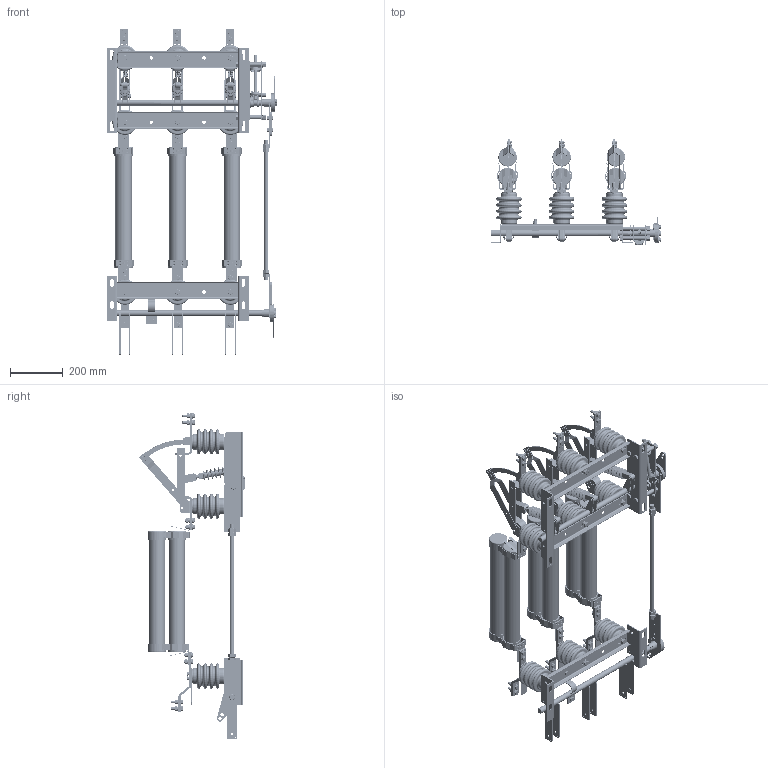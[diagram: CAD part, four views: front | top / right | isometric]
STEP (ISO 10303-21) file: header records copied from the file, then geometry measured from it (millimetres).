
FILE_DESCRIPTION (( 'STEP AP214' ), '1' );
FILE_NAME ('Âûêëþ÷àòåëü íàãðóçêè ÂÍÀ-10630-Ë-ç-ÏÒ1.3-È2-ÓÕË2-ÊÝÀÇ.STEP', '2023-02-01T06:59:10', ( '' ), ( '' ), 'SwSTEP 2.0', 'SolidWorks 2018', '' );
FILE_SCHEMA (( 'AUTOMOTIVE_DESIGN' ));
Length unit declared in the file: millimetre
Products named in the file (1): Âûêëþ÷àòåëü íàãðóçêè ÂÍÀ-10630-Ë-ç-ÏÒ1.3-È2-ÓÕË2-ÊÝÀÇ
Bounding box: 647.2 x 402.34 x 1237.98 mm (x, y, z)
Volume: 17678639.6 mm3; surface area: 2633833.4 mm2
Topology: 1 solids, 59 shells, 6036 faces, 15194 edges, 9577 vertices
Faces by surface type: plane 2980, cylinder 2032, cone 722, torus 296, bspline 6
Full cylindrical faces by diameter (mm): 4.2 x24, 8.2 x2, 8.993 x5, 9 x6, 9.5 x18, 10.8 x26, 12.35 x14, 12.704 x1, 12.915 x1, 12.977 x1, 13.051 x3, 14.508 x4, 15.19 x4, 16 x1, 16.205 x4, 17.1 x3, 22 x3, 62 x3, 70 x13
Entity records: 220481 total; most frequent: CARTESIAN_POINT 75624, DIRECTION 30581, ORIENTED_EDGE 29928, EDGE_CURVE 14964, AXIS2_PLACEMENT_3D 11663, VERTEX_POINT 9490, LINE 7255, VECTOR 7255
